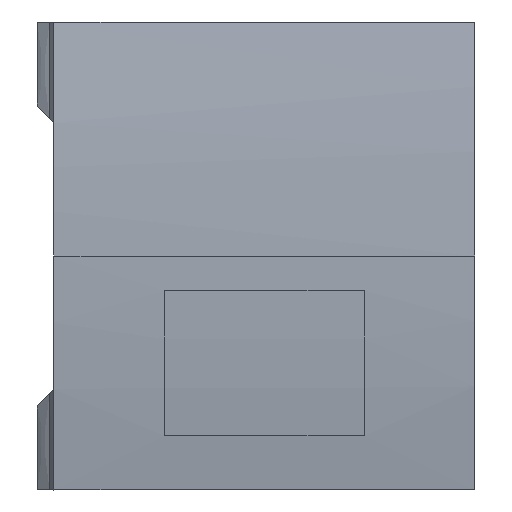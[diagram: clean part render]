
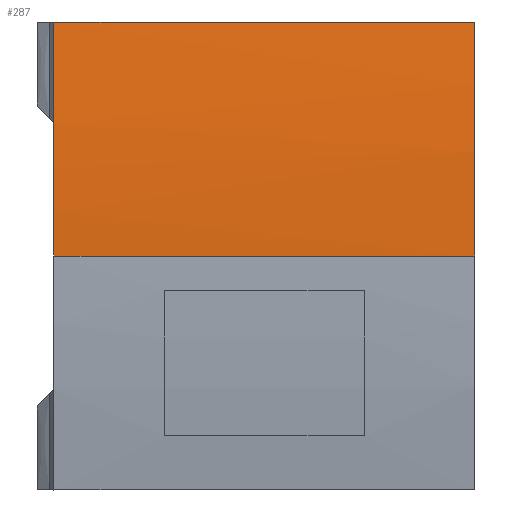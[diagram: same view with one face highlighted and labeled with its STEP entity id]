
A CAD part, front view. The second image highlights one B-rep face of the part: STEP entity #287.
In plain terms, the highlighted cylindrical face has radius 128 mm (diameter 256 mm), a partial arc.
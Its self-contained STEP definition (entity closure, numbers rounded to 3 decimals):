
#287=ADVANCED_FACE('',(#1559),#1561,.T.);
#1559=FACE_BOUND('',#1560,.T.);
#1560=EDGE_LOOP('',(#2476,#2477,#2478,#2479,#2480));
#1561=CYLINDRICAL_SURFACE('',#1562,128.);
#1562=AXIS2_PLACEMENT_3D('',#1563,#1564,#1565);
#1563=CARTESIAN_POINT('',(218.956,33.665,0.103));
#1564=DIRECTION('',(-1.,0.,0.));
#1565=DIRECTION('',(0.,0.,1.));
#2476=ORIENTED_EDGE('',*,*,#2795,.T.);
#2477=ORIENTED_EDGE('',*,*,#2755,.T.);
#2478=ORIENTED_EDGE('',*,*,#2796,.F.);
#2479=ORIENTED_EDGE('',*,*,#2727,.F.);
#2480=ORIENTED_EDGE('',*,*,#2797,.T.);
#2727=EDGE_CURVE('',#2910,#2912,#2913,.T.);
#2755=EDGE_CURVE('',#2965,#2958,#2966,.T.);
#2795=EDGE_CURVE('',#3029,#2965,#3030,.T.);
#2796=EDGE_CURVE('',#2912,#2958,#3031,.T.);
#2797=EDGE_CURVE('',#2910,#3029,#3032,.T.);
#2910=VERTEX_POINT('',#3219);
#2912=VERTEX_POINT('',#3224);
#2913=LINE('',#3225,#3226);
#2958=VERTEX_POINT('',#3624);
#2965=VERTEX_POINT('',#3645);
#2966=B_SPLINE_CURVE_WITH_KNOTS('',3,
(#3646,#3647,#3648,#3649,#3650,#3651),
.UNSPECIFIED.,.F.,.F.,
(4,1,1,4),
(0.,0.333,0.667,1.),
.UNSPECIFIED.);
#3029=VERTEX_POINT('',#4071);
#3030=LINE('',#4072,#4073);
#3031=CIRCLE('',#4075,128.);
#3032=(BOUNDED_CURVE()B_SPLINE_CURVE(3,
(#4079,#4080,#4081,#4082),
.UNSPECIFIED.,.F.,.F.)B_SPLINE_CURVE_WITH_KNOTS((4,4),
(0.,1.),
.UNSPECIFIED.)CURVE()GEOMETRIC_REPRESENTATION_ITEM()RATIONAL_B_SPLINE_CURVE((1.,
0.998,0.998,1.))REPRESENTATION_ITEM(''));
#3219=CARTESIAN_POINT('',(237.9,-94.335,0.103));
#3224=CARTESIAN_POINT('',(200.013,-94.335,0.103));
#3225=CARTESIAN_POINT('',(237.9,-94.335,0.103));
#3226=VECTOR('',#3227,1.);
#3227=DIRECTION('',(-1.,0.,0.));
#3624=CARTESIAN_POINT('',(200.013,-93.771,12.106));
#3645=CARTESIAN_POINT('',(200.013,-92.589,21.173));
#3646=CARTESIAN_POINT('',(200.013,-92.589,21.173));
#3647=CARTESIAN_POINT('',(200.013,-92.756,20.171));
#3648=CARTESIAN_POINT('',(200.013,-93.067,18.163));
#3649=CARTESIAN_POINT('',(200.013,-93.461,15.139));
#3650=CARTESIAN_POINT('',(200.013,-93.675,13.118));
#3651=CARTESIAN_POINT('',(200.013,-93.771,12.106));
#4071=CARTESIAN_POINT('',(237.869,-92.589,21.173));
#4072=CARTESIAN_POINT('',(237.869,-92.589,21.173));
#4073=VECTOR('',#4074,1.);
#4074=DIRECTION('',(-1.,0.,0.));
#4075=AXIS2_PLACEMENT_3D('',#4076,#4077,#4078);
#4076=CARTESIAN_POINT('',(200.013,33.665,0.103));
#4077=DIRECTION('',(-1.,0.,0.));
#4078=DIRECTION('',(0.,-1.,0.));
#4079=CARTESIAN_POINT('',(237.9,-94.335,0.103));
#4080=CARTESIAN_POINT('',(237.9,-94.335,7.167));
#4081=CARTESIAN_POINT('',(237.89,-93.751,14.206));
#4082=CARTESIAN_POINT('',(237.869,-92.589,21.173));
